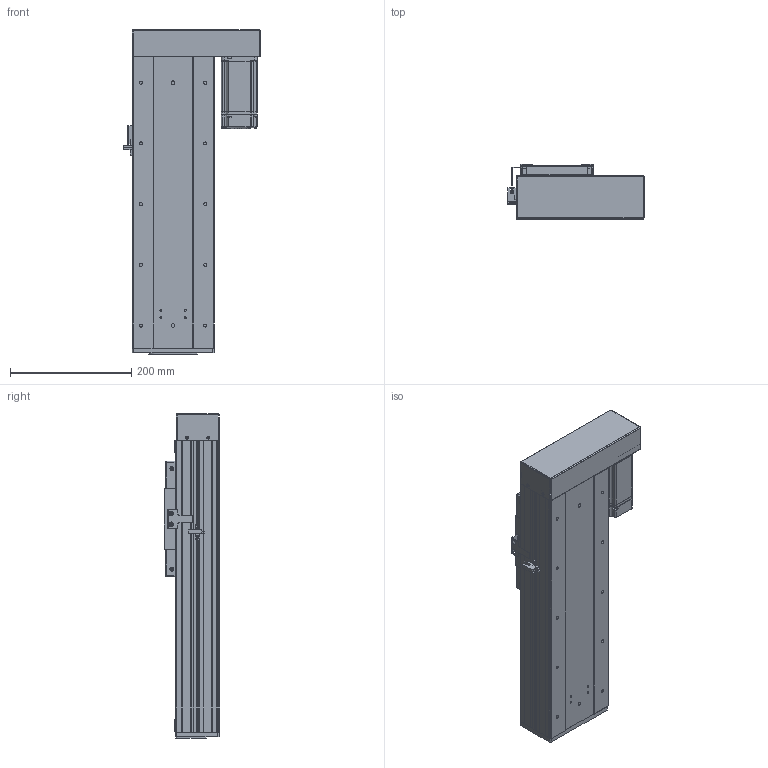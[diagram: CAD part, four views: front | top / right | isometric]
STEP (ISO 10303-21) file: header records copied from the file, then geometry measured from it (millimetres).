
FILE_DESCRIPTION (( 'STEP AP203' ), '1' );
FILE_NAME ('RY140F-L2020-300-RK.SLDASM_200.step', '2021-03-02T08:49:56', ( '盈信电脑' ), ( '东莞市道滘镇水果街19号' ), 'SwSTEP 2.0', 'SolidWorks 2012', '' );
FILE_SCHEMA (( 'CONFIG_CONTROL_DESIGN' ));
Length unit declared in the file: millimetre
Products named in the file (19): RY140F-滅鳥奻裔; RY140F-直连型材铝滑块连接座; RY140F-詩湍幗謫粣; RY140F-300-RK倰第奻裔啣_200; RY140F-300-RK蛌殏詩湍_200; RY140F-300-RK倰第菁釱_200; RY100F-詩湍揤踡謫; RY140F-直连型材铝滑块(16丝杆); RY140F-L2020-300-RK.SLDASM_200; RY140F-酘衵殏萇儂欶(400W); RY140F-左右折电机安装板(400W M5); RY140F-转折折电机座（7001）; 侐源滅袉蝶; RY140F-詩湍揤え; RY140F-672覜茼んえ; 覜茼ん672; RY140F-后盖板(铝件）; 侂狟400W侜督萇儂; 15
Assembly tree (23 placements, depth 3):
  RY140F-L2020-300-RK.SLDASM_200
    RY140F-300-RK倰第菁釱_200
    RY140F-300-RK倰第奻裔啣_200  x2
    RY140F-300-RK蛌殏詩湍_200
    RY140F-直连型材铝滑块连接座
    RY140F-滅鳥奻裔
    RY140F-詩湍幗謫粣
    RY100F-詩湍揤踡謫
    RY140F-直连型材铝滑块(16丝杆)
    RY140F-后盖板(铝件）
    侂狟400W侜督萇儂
      15
    覜茼ん672
    RY140F-672覜茼んえ
    RY140F-詩湍揤え  x2
    侐源滅袉蝶  x4
    RY140F-转折折电机座（7001）
    RY140F-左右折电机安装板(400W M5)
    RY140F-酘衵殏萇儂欶(400W)
Bounding box: 224.7 x 91 x 534 mm (x, y, z)
Volume: 2616076.4 mm3; surface area: 919192.4 mm2
Topology: 22 solids, 22 shells, 1961 faces, 5357 edges, 3416 vertices
Faces by surface type: cylinder 944, plane 789, cone 198, bspline 26, torus 4
Entity records: 62135 total; most frequent: CARTESIAN_POINT 13241, DIRECTION 9890, ORIENTED_EDGE 9658, EDGE_CURVE 4829, AXIS2_PLACEMENT_3D 3529, VERTEX_POINT 3156, VECTOR 2832, LINE 2832
